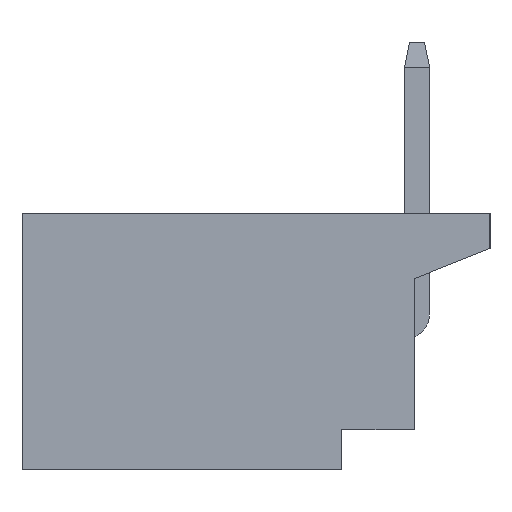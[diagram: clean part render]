
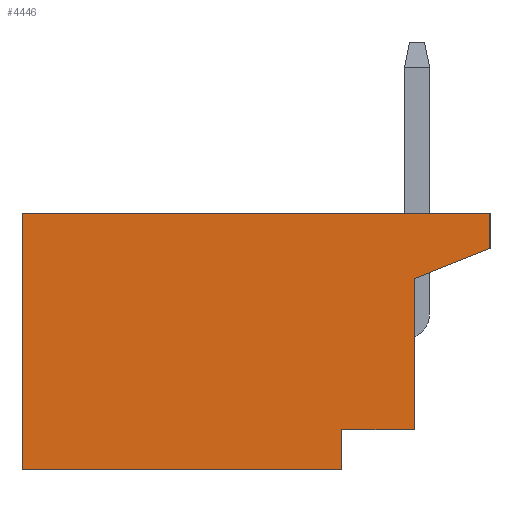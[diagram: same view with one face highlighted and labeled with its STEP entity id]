
A CAD part, left-side view. The second image highlights one B-rep face of the part: STEP entity #4446.
In plain terms, the highlighted planar face has unit normal (-1, 0, 0).
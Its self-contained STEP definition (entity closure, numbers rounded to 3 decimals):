
#101=CARTESIAN_POINT('Vertex',(-8.,-9.3,-0.7)) ;
#104=CARTESIAN_POINT('Line Origine',(-8.,-8.55,-1.)) ;
#108=CARTESIAN_POINT('Vertex',(-8.,-7.8,-1.3)) ;
#387=CARTESIAN_POINT('Line Origine',(-8.,-7.8,-2.8)) ;
#391=CARTESIAN_POINT('Vertex',(-8.,-7.8,-4.3)) ;
#1845=CARTESIAN_POINT('Vertex',(-8.,-6.35,-5.1)) ;
#1848=CARTESIAN_POINT('Line Origine',(-8.,-3.175,-5.1)) ;
#1852=CARTESIAN_POINT('Vertex',(-8.,0.,-5.1)) ;
#1964=CARTESIAN_POINT('Vertex',(-8.,-6.35,-4.3)) ;
#1967=CARTESIAN_POINT('Line Origine',(-8.,-6.35,-4.7)) ;
#4407=CARTESIAN_POINT('Axis2P3D Location',(-8.,0.,0.)) ;
#4412=CARTESIAN_POINT('Line Origine',(-8.,0.,-2.55)) ;
#4416=CARTESIAN_POINT('Vertex',(-8.,0.,0.)) ;
#4419=CARTESIAN_POINT('Line Origine',(-8.,-7.075,-4.3)) ;
#4424=CARTESIAN_POINT('Line Origine',(-8.,-9.3,-0.35)) ;
#4428=CARTESIAN_POINT('Vertex',(-8.,-9.3,0.)) ;
#4431=CARTESIAN_POINT('Line Origine',(-8.,-4.65,0.)) ;
#105=DIRECTION('Vector Direction',(0.,0.928,-0.371)) ;
#388=DIRECTION('Vector Direction',(0.,0.,1.)) ;
#1849=DIRECTION('Vector Direction',(0.,-1.,0.)) ;
#1968=DIRECTION('Vector Direction',(0.,0.,1.)) ;
#4408=DIRECTION('Axis2P3D Direction',(-1.,0.,0.)) ;
#4409=DIRECTION('Axis2P3D XDirection',(-0.,-0.,-1.)) ;
#4413=DIRECTION('Vector Direction',(0.,0.,-1.)) ;
#4420=DIRECTION('Vector Direction',(0.,-1.,0.)) ;
#4425=DIRECTION('Vector Direction',(0.,0.,-1.)) ;
#4432=DIRECTION('Vector Direction',(0.,1.,0.)) ;
#4410=AXIS2_PLACEMENT_3D('Plane Axis2P3D',#4407,#4408,#4409) ;
#4437=ORIENTED_EDGE('',*,*,#4418,.T.) ;
#4438=ORIENTED_EDGE('',*,*,#1854,.T.) ;
#4439=ORIENTED_EDGE('',*,*,#1971,.T.) ;
#4440=ORIENTED_EDGE('',*,*,#4423,.T.) ;
#4441=ORIENTED_EDGE('',*,*,#393,.T.) ;
#4442=ORIENTED_EDGE('',*,*,#110,.F.) ;
#4443=ORIENTED_EDGE('',*,*,#4430,.F.) ;
#4444=ORIENTED_EDGE('',*,*,#4435,.T.) ;
#106=VECTOR('Line Direction',#105,1.) ;
#389=VECTOR('Line Direction',#388,1.) ;
#1850=VECTOR('Line Direction',#1849,1.) ;
#1969=VECTOR('Line Direction',#1968,1.) ;
#4414=VECTOR('Line Direction',#4413,1.) ;
#4421=VECTOR('Line Direction',#4420,1.) ;
#4426=VECTOR('Line Direction',#4425,1.) ;
#4433=VECTOR('Line Direction',#4432,1.) ;
#4446=ADVANCED_FACE('\X2\96F64EF651E04F554F53\X0\',(#4445),#4411,.T.) ;
#110=EDGE_CURVE('',#102,#109,#107,.T.) ;
#393=EDGE_CURVE('',#392,#109,#390,.T.) ;
#1854=EDGE_CURVE('',#1853,#1846,#1851,.T.) ;
#1971=EDGE_CURVE('',#1846,#1965,#1970,.T.) ;
#4418=EDGE_CURVE('',#4417,#1853,#4415,.T.) ;
#4423=EDGE_CURVE('',#1965,#392,#4422,.T.) ;
#4430=EDGE_CURVE('',#4429,#102,#4427,.T.) ;
#4435=EDGE_CURVE('',#4429,#4417,#4434,.T.) ;
#4436=EDGE_LOOP('',(#4437,#4438,#4439,#4440,#4441,#4442,#4443,#4444)) ;
#4445=FACE_OUTER_BOUND('',#4436,.T.) ;
#107=LINE('Line',#104,#106) ;
#390=LINE('Line',#387,#389) ;
#1851=LINE('Line',#1848,#1850) ;
#1970=LINE('Line',#1967,#1969) ;
#4415=LINE('Line',#4412,#4414) ;
#4422=LINE('Line',#4419,#4421) ;
#4427=LINE('Line',#4424,#4426) ;
#4434=LINE('Line',#4431,#4433) ;
#4411=PLANE('Plane',#4410) ;
#102=VERTEX_POINT('',#101) ;
#109=VERTEX_POINT('',#108) ;
#392=VERTEX_POINT('',#391) ;
#1846=VERTEX_POINT('',#1845) ;
#1853=VERTEX_POINT('',#1852) ;
#1965=VERTEX_POINT('',#1964) ;
#4417=VERTEX_POINT('',#4416) ;
#4429=VERTEX_POINT('',#4428) ;
